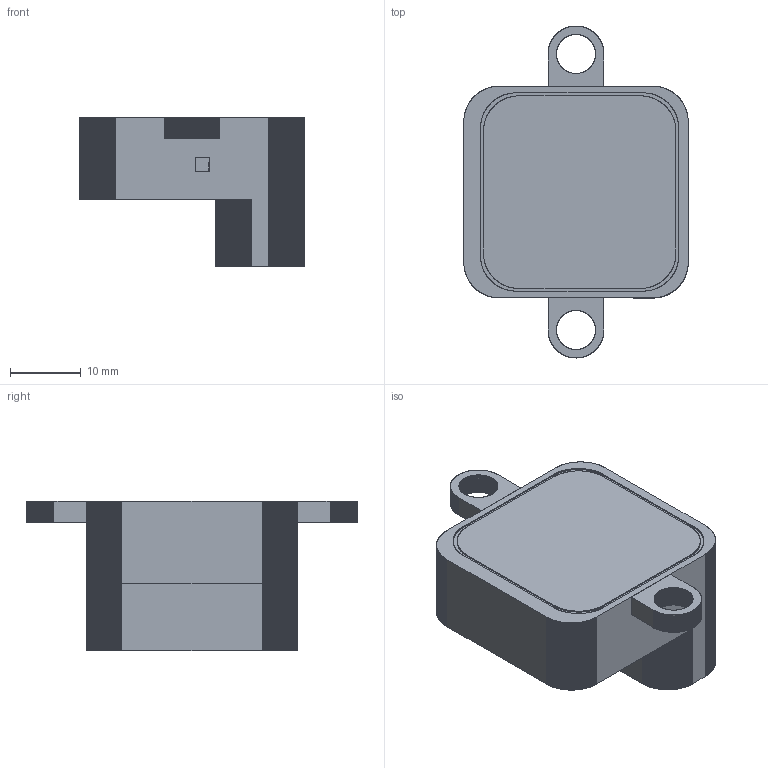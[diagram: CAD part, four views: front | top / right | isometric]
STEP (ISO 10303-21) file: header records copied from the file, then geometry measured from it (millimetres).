
FILE_DESCRIPTION(('FreeCAD Model'),'2;1');
FILE_NAME('Open CASCADE Shape Model','2025-02-22T19:14:43',('Author'),( ''),'Open CASCADE STEP processor 7.8','FreeCAD','Unknown');
FILE_SCHEMA(('AUTOMOTIVE_DESIGN { 1 0 10303 214 1 1 1 1 }'));
Products named in the file (1): db151_v2_all001 (Solid)001
Bounding box: 31.7 x 46.9 x 21.16 mm (x, y, z)
Volume: 4325 mm3; surface area: 7728.4 mm2
Topology: 1 solids, 1 shells, 7454 faces, 22297 edges, 14854 vertices
Faces by surface type: plane 7454
Entity records: 245491 total; most frequent: CARTESIAN_POINT 44606, ORIENTED_EDGE 44594, DIRECTION 37207, EDGE_CURVE 22297, LINE 22297, VECTOR 22297, VERTEX_POINT 14854, FACE_BOUND 7475
